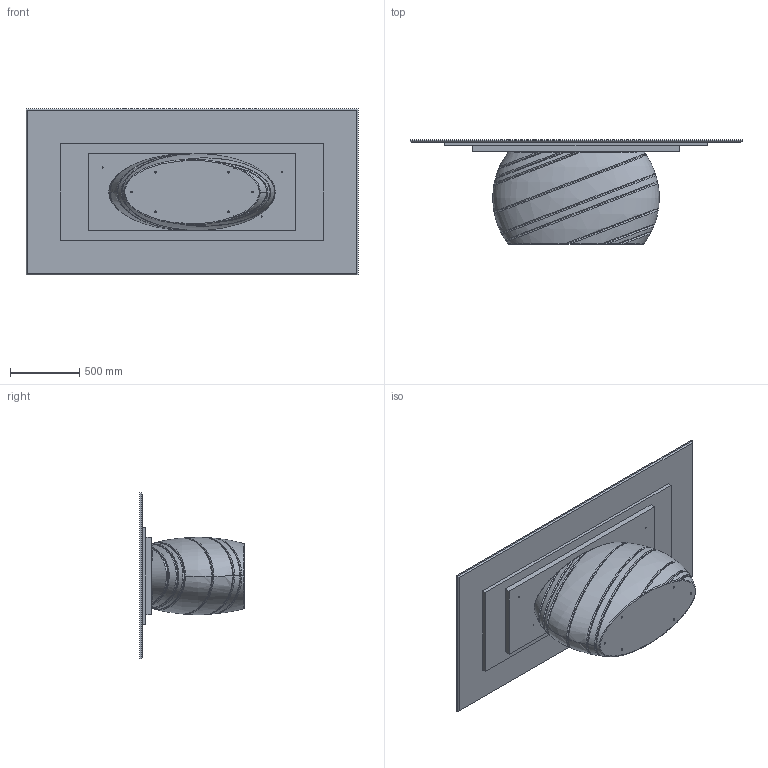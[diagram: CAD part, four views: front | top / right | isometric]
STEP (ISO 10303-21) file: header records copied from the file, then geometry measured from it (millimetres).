
FILE_DESCRIPTION (( 'STEP AP203' ), '1' );
FILE_NAME ('marmo 240x120.STEP', '2025-05-26T14:04:38', ( '' ), ( '' ), 'SwSTEP 2.0', 'SolidWorks 2022', '' );
FILE_SCHEMA (( 'CONFIG_CONTROL_DESIGN' ));
Length unit declared in the file: millimetre
Products named in the file (3): PIANI_modello 3D x web_Marmo 240x120; GIB000xxx-00-BASE GIOVE X 300; marmo 240x120
Assembly tree (2 placements, depth 2):
  marmo 240x120
    PIANI_modello 3D x web_Marmo 240x120
    GIB000xxx-00-BASE GIOVE X 300
Bounding box: 2400 x 757 x 1200 mm (x, y, z)
Volume: 440578437.2 mm3; surface area: 13263779 mm2
Topology: 4 solids, 4 shells, 166 faces, 401 edges, 258 vertices
Faces by surface type: bspline 53, plane 45, cylinder 44, cone 24
Entity records: 37488 total; most frequent: CARTESIAN_POINT 33653, ORIENTED_EDGE 802, DIRECTION 608, EDGE_CURVE 401, VERTEX_POINT 258, AXIS2_PLACEMENT_3D 242, EDGE_LOOP 201, FACE_OUTER_BOUND 166
